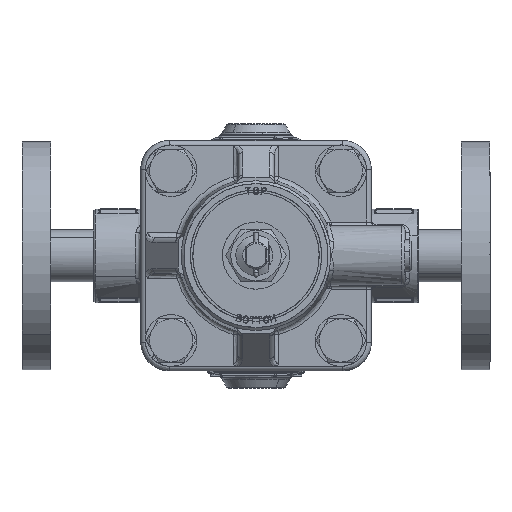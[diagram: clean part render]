
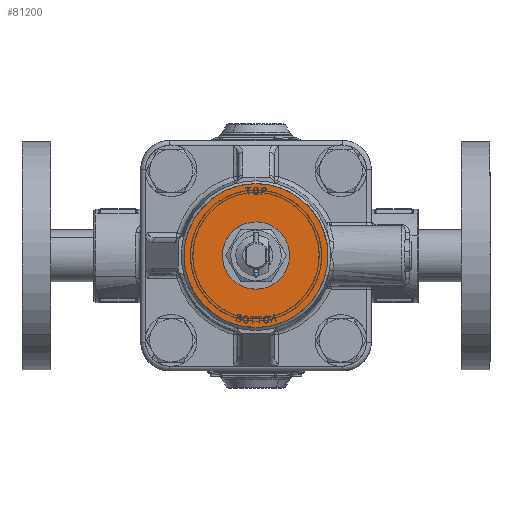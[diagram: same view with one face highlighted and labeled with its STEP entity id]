
A CAD part, top view. The second image highlights one B-rep face of the part: STEP entity #81200.
In plain terms, the highlighted free-form (B-spline) face has degree [1, 1] with [2, 2] control points.
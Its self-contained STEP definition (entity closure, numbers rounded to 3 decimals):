
#80889=CARTESIAN_POINT('',(-20.268,22.118,28.2));
#80890=VERTEX_POINT('',#80889);
#80896=CARTESIAN_POINT('',(0.,30.,28.2));
#80897=VERTEX_POINT('',#80896);
#80898=CARTESIAN_POINT('',(0.,30.,28.2));
#80899=CARTESIAN_POINT('',(-1.507,30.,28.2));
#80900=CARTESIAN_POINT('',(-5.1,29.729,28.2));
#80901=CARTESIAN_POINT('',(-9.948,28.465,28.2));
#80902=CARTESIAN_POINT('',(-15.337,26.001,28.2));
#80903=CARTESIAN_POINT('',(-18.474,23.763,28.2));
#80904=CARTESIAN_POINT('',(-20.268,22.118,28.2));
#80905=B_SPLINE_CURVE_WITH_KNOTS('',3,(#80898,#80899,#80900,#80901,#80902,#80903,#80904),.UNSPECIFIED.,.F.,.U.,(4,1,1,1,4),(0.,4.52,10.779,14.951,22.253),.UNSPECIFIED.);
#80906=EDGE_CURVE('',#80897,#80890,#80905,.T.);
#80908=CARTESIAN_POINT('',(30.,0.,28.2));
#80909=VERTEX_POINT('',#80908);
#80910=CARTESIAN_POINT('',(30.,0.,28.2));
#80911=CARTESIAN_POINT('',(30.,2.086,28.2));
#80912=CARTESIAN_POINT('',(29.576,6.136,28.2));
#80913=CARTESIAN_POINT('',(27.863,11.543,28.2));
#80914=CARTESIAN_POINT('',(25.683,15.682,28.2));
#80915=CARTESIAN_POINT('',(23.113,19.284,28.2));
#80916=CARTESIAN_POINT('',(20.395,22.139,28.2));
#80917=CARTESIAN_POINT('',(16.827,24.959,28.2));
#80918=CARTESIAN_POINT('',(13.103,27.129,28.2));
#80919=CARTESIAN_POINT('',(7.362,29.344,28.2));
#80920=CARTESIAN_POINT('',(2.945,30.001,28.2));
#80921=CARTESIAN_POINT('',(0.,30.,28.2));
#80922=B_SPLINE_CURVE_WITH_KNOTS('',3,(#80910,#80911,#80912,#80913,#80914,#80915,#80916,#80917,#80918,#80919,#80920,#80921),.UNSPECIFIED.,.F.,.U.,(4,1,1,1,1,1,1,1,1,4),(0.,6.259,12.149,16.935,20.249,25.403,28.716,33.87,38.288,47.124),.UNSPECIFIED.);
#80923=EDGE_CURVE('',#80909,#80897,#80922,.T.);
#80925=CARTESIAN_POINT('',(20.268,-22.118,28.2));
#80926=VERTEX_POINT('',#80925);
#80927=CARTESIAN_POINT('',(20.268,-22.118,28.2));
#80928=CARTESIAN_POINT('',(22.37,-20.194,28.2));
#80929=CARTESIAN_POINT('',(25.105,-16.853,28.2));
#80930=CARTESIAN_POINT('',(27.885,-11.419,28.2));
#80931=CARTESIAN_POINT('',(29.556,-6.218,28.2));
#80932=CARTESIAN_POINT('',(30.,-2.202,28.2));
#80933=CARTESIAN_POINT('',(30.,0.,28.2));
#80934=B_SPLINE_CURVE_WITH_KNOTS('',3,(#80927,#80928,#80929,#80930,#80931,#80932,#80933),.UNSPECIFIED.,.F.,.U.,(4,1,1,1,4),(0.,8.549,12.824,18.265,24.871),.UNSPECIFIED.);
#80935=EDGE_CURVE('',#80926,#80909,#80934,.T.);
#81041=CARTESIAN_POINT('',(0.,-30.,28.2));
#81042=VERTEX_POINT('',#81041);
#81043=CARTESIAN_POINT('',(0.,-30.,28.2));
#81044=CARTESIAN_POINT('',(1.391,-30.,28.2));
#81045=CARTESIAN_POINT('',(4.636,-29.774,28.2));
#81046=CARTESIAN_POINT('',(9.281,-28.678,28.2));
#81047=CARTESIAN_POINT('',(14.848,-26.325,28.2));
#81048=CARTESIAN_POINT('',(18.303,-23.92,28.2));
#81049=CARTESIAN_POINT('',(20.268,-22.118,28.2));
#81050=B_SPLINE_CURVE_WITH_KNOTS('',3,(#81043,#81044,#81045,#81046,#81047,#81048,#81049),.UNSPECIFIED.,.F.,.U.,(4,1,1,1,4),(0.,4.172,9.736,14.256,22.253),.UNSPECIFIED.);
#81051=EDGE_CURVE('',#81042,#80926,#81050,.T.);
#81053=CARTESIAN_POINT('',(-30.,0.,28.2));
#81054=VERTEX_POINT('',#81053);
#81055=CARTESIAN_POINT('',(-30.,0.,28.2));
#81056=CARTESIAN_POINT('',(-30.,-12.426,28.2));
#81057=CARTESIAN_POINT('',(-21.213,-21.213,28.2));
#81058=CARTESIAN_POINT('',(-12.426,-30.,28.2));
#81059=CARTESIAN_POINT('',(0.,-30.,28.2));
#81067=(BOUNDED_CURVE()B_SPLINE_CURVE(2,(#81055,#81056,#81057,#81058,#81059),.UNSPECIFIED.,.F.,.U.)B_SPLINE_CURVE_WITH_KNOTS((3,2,3),(0.,0.5,1.),.UNSPECIFIED.)CURVE()GEOMETRIC_REPRESENTATION_ITEM()RATIONAL_B_SPLINE_CURVE((1.,0.924,1.,0.924,1.))REPRESENTATION_ITEM(''));
#81068=EDGE_CURVE('',#81054,#81042,#81067,.T.);
#81070=CARTESIAN_POINT('',(-20.268,22.118,28.2));
#81071=CARTESIAN_POINT('',(-21.796,20.718,28.2));
#81072=CARTESIAN_POINT('',(-23.956,18.282,28.2));
#81073=CARTESIAN_POINT('',(-26.659,14.004,28.2));
#81074=CARTESIAN_POINT('',(-28.492,9.837,28.2));
#81075=CARTESIAN_POINT('',(-29.727,4.922,28.2));
#81076=CARTESIAN_POINT('',(-30.,1.684,28.2));
#81077=CARTESIAN_POINT('',(-30.,0.,28.2));
#81078=B_SPLINE_CURVE_WITH_KNOTS('',3,(#81070,#81071,#81072,#81073,#81074,#81075,#81076,#81077),.UNSPECIFIED.,.F.,.U.,(4,1,1,1,1,4),(0.,6.218,9.715,15.156,19.819,24.871),.UNSPECIFIED.);
#81079=EDGE_CURVE('',#80890,#81054,#81078,.T.);
#81143=CARTESIAN_POINT('',(32.997,-32.997,28.2));
#81144=CARTESIAN_POINT('',(-32.997,-32.997,28.2));
#81145=CARTESIAN_POINT('',(32.997,32.997,28.2));
#81146=CARTESIAN_POINT('',(-32.997,32.997,28.2));
#81147=B_SPLINE_SURFACE_WITH_KNOTS('',1,1,((#81143,#81145),(#81144,#81146)),.UNSPECIFIED.,.F.,.F.,.U.,(2,2),(2,2),(0.,65.994),(0.,65.994),.UNSPECIFIED.);
#81148=ORIENTED_EDGE('',*,*,#81068,.T.);
#81149=ORIENTED_EDGE('',*,*,#81051,.T.);
#81150=ORIENTED_EDGE('',*,*,#80935,.T.);
#81151=ORIENTED_EDGE('',*,*,#80923,.T.);
#81152=ORIENTED_EDGE('',*,*,#80906,.T.);
#81153=ORIENTED_EDGE('',*,*,#81079,.T.);
#81154=EDGE_LOOP('',(#81148,#81149,#81150,#81151,#81152,#81153));
#81155=FACE_OUTER_BOUND('',#81154,.T.);
#81156=CARTESIAN_POINT('',(-4.989,-5.6,28.2));
#81157=VERTEX_POINT('',#81156);
#81158=CARTESIAN_POINT('',(4.989,-5.6,28.2));
#81159=VERTEX_POINT('',#81158);
#81160=CARTESIAN_POINT('',(-4.989,-5.6,28.2));
#81161=CARTESIAN_POINT('',(4.989,-5.6,28.2));
#81162=QUASI_UNIFORM_CURVE('',1,(#81160,#81161),.UNSPECIFIED.,.F.,.U.);
#81163=EDGE_CURVE('',#81157,#81159,#81162,.T.);
#81164=ORIENTED_EDGE('',*,*,#81163,.F.);
#81165=CARTESIAN_POINT('',(0.,7.5,28.2));
#81166=VERTEX_POINT('',#81165);
#81167=CARTESIAN_POINT('',(0.,7.5,28.2));
#81168=CARTESIAN_POINT('',(-5.169,7.5,28.2));
#81169=CARTESIAN_POINT('',(-7.009,2.669,28.2));
#81170=CARTESIAN_POINT('',(-8.849,-2.161,28.2));
#81171=CARTESIAN_POINT('',(-4.989,-5.6,28.2));
#81179=(BOUNDED_CURVE()B_SPLINE_CURVE(2,(#81167,#81168,#81169,#81170,#81171),.UNSPECIFIED.,.F.,.U.)B_SPLINE_CURVE_WITH_KNOTS((3,2,3),(0.,0.5,1.),.UNSPECIFIED.)CURVE()GEOMETRIC_REPRESENTATION_ITEM()RATIONAL_B_SPLINE_CURVE((1.,0.823,1.,0.823,1.))REPRESENTATION_ITEM(''));
#81180=EDGE_CURVE('',#81166,#81157,#81179,.T.);
#81181=ORIENTED_EDGE('',*,*,#81180,.F.);
#81182=CARTESIAN_POINT('',(4.989,-5.6,28.2));
#81183=CARTESIAN_POINT('',(5.588,-5.067,28.2));
#81184=CARTESIAN_POINT('',(6.431,-4.029,28.2));
#81185=CARTESIAN_POINT('',(7.221,-2.254,28.2));
#81186=CARTESIAN_POINT('',(7.575,-0.435,28.2));
#81187=CARTESIAN_POINT('',(7.426,1.654,28.2));
#81188=CARTESIAN_POINT('',(6.679,3.615,28.2));
#81189=CARTESIAN_POINT('',(5.661,4.989,28.2));
#81190=CARTESIAN_POINT('',(4.55,6.014,28.2));
#81191=CARTESIAN_POINT('',(3.308,6.803,28.2));
#81192=CARTESIAN_POINT('',(1.697,7.371,28.2));
#81193=CARTESIAN_POINT('',(0.566,7.5,28.2));
#81194=CARTESIAN_POINT('',(0.,7.5,28.2));
#81195=B_SPLINE_CURVE_WITH_KNOTS('',3,(#81182,#81183,#81184,#81185,#81186,#81187,#81188,#81189,#81190,#81191,#81192,#81193,#81194),.UNSPECIFIED.,.F.,.U.,(4,1,1,1,1,1,1,1,1,1,4),(0.,2.404,3.96,5.799,7.921,10.183,12.022,13.012,14.71,16.407,18.104),.UNSPECIFIED.);
#81196=EDGE_CURVE('',#81159,#81166,#81195,.T.);
#81197=ORIENTED_EDGE('',*,*,#81196,.F.);
#81198=EDGE_LOOP('',(#81164,#81181,#81197));
#81199=FACE_BOUND('',#81198,.T.);
#81200=ADVANCED_FACE('',(#81155,#81199),#81147,.F.);
